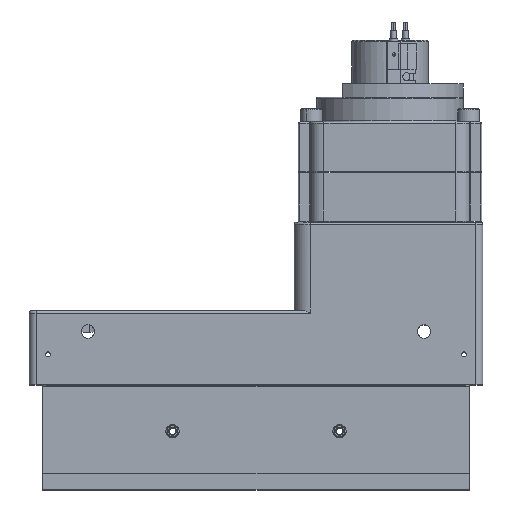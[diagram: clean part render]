
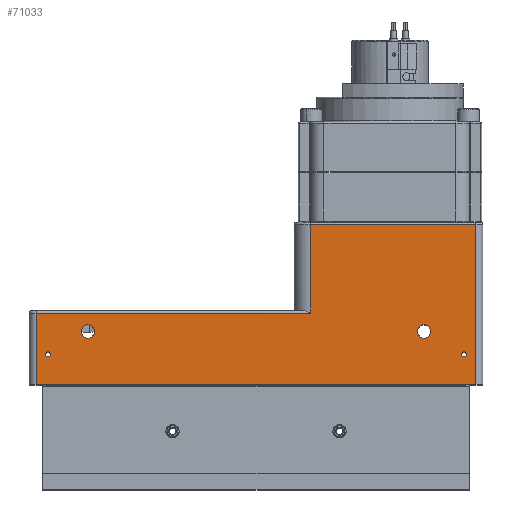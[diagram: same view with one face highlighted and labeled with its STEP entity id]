
A CAD part, top view. The second image highlights one B-rep face of the part: STEP entity #71033.
In plain terms, the highlighted planar face has unit normal (0, 0, 1).
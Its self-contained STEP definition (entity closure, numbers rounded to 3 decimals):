
#655 = CARTESIAN_POINT ( 'NONE',  ( -228.15, 63.602, 0. ) ) ;
#2196 = ORIENTED_EDGE ( 'NONE', *, *, #98437, .T. ) ;
#2356 = DIRECTION ( 'NONE',  ( 1., 0., 0. ) ) ;
#3676 = PLANE ( 'NONE',  #24675 ) ;
#4044 = VERTEX_POINT ( 'NONE', #32983 ) ;
#4432 = AXIS2_PLACEMENT_3D ( 'NONE', #113099, #57686, #2356 ) ;
#7827 = ORIENTED_EDGE ( 'NONE', *, *, #105913, .F. ) ;
#8080 = EDGE_LOOP ( 'NONE', ( #44246, #99811 ) ) ;
#8479 = VECTOR ( 'NONE', #40219, 1000. ) ;
#9543 = FACE_BOUND ( 'NONE', #8080, .T. ) ;
#9981 = DIRECTION ( 'NONE',  ( 1., 0., 0. ) ) ;
#10418 = CIRCLE ( 'NONE', #24355, 1.5 ) ;
#10759 = CARTESIAN_POINT ( 'NONE',  ( -259.15, 31.602, 0. ) ) ;
#11234 = AXIS2_PLACEMENT_3D ( 'NONE', #107255, #51890, #116637 ) ;
#11462 = DIRECTION ( 'NONE',  ( 0., 0., 1. ) ) ;
#12246 = CIRCLE ( 'NONE', #28177, 4.025 ) ;
#12394 = EDGE_CURVE ( 'NONE', #68558, #95173, #37319, .T. ) ;
#12789 = EDGE_CURVE ( 'NONE', #99424, #52660, #66110, .T. ) ;
#12948 = CARTESIAN_POINT ( 'NONE',  ( -263.15, 31.602, 0. ) ) ;
#13507 = CARTESIAN_POINT ( 'NONE',  ( -253.5, 49.852, 0. ) ) ;
#16402 = VECTOR ( 'NONE', #104312, 1000. ) ;
#16957 = EDGE_CURVE ( 'NONE', #110487, #44581, #32501, .T. ) ;
#17541 = CARTESIAN_POINT ( 'NONE',  ( -3., 49.852, 0. ) ) ;
#17686 = CARTESIAN_POINT ( 'NONE',  ( -252., 49.852, 0. ) ) ;
#18920 = LINE ( 'NONE', #65262, #111504 ) ;
#19090 = AXIS2_PLACEMENT_3D ( 'NONE', #655, #65255, #9981 ) ;
#20735 = ORIENTED_EDGE ( 'NONE', *, *, #52954, .T. ) ;
#21434 = VERTEX_POINT ( 'NONE', #37116 ) ;
#22115 = DIRECTION ( 'NONE',  ( 0., 0., 1. ) ) ;
#22229 = DIRECTION ( 'NONE',  ( 1., 0., 0. ) ) ;
#23223 = CARTESIAN_POINT ( 'NONE',  ( -94.66, 74.602, 0. ) ) ;
#24355 = AXIS2_PLACEMENT_3D ( 'NONE', #17541, #82242, #26847 ) ;
#24675 = AXIS2_PLACEMENT_3D ( 'NONE', #12948, #77540, #22229 ) ;
#25421 = ORIENTED_EDGE ( 'NONE', *, *, #81037, .T. ) ;
#26847 = DIRECTION ( 'NONE',  ( 1., 0., 0. ) ) ;
#26986 = DIRECTION ( 'NONE',  ( 1., 0., 0. ) ) ;
#28177 = AXIS2_PLACEMENT_3D ( 'NONE', #77422, #22115, #86770 ) ;
#28216 = CARTESIAN_POINT ( 'NONE',  ( -224.125, 63.602, 0. ) ) ;
#30348 = CARTESIAN_POINT ( 'NONE',  ( 4.15, 31.602, 0. ) ) ;
#32501 = CIRCLE ( 'NONE', #102117, 1.5 ) ;
#32983 = CARTESIAN_POINT ( 'NONE',  ( 4.15, 31.602, 0. ) ) ;
#34158 = FACE_OUTER_BOUND ( 'NONE', #118851, .T. ) ;
#35922 = ORIENTED_EDGE ( 'NONE', *, *, #101659, .T. ) ;
#37116 = CARTESIAN_POINT ( 'NONE',  ( -259.15, 74.602, 0. ) ) ;
#37319 = CIRCLE ( 'NONE', #19090, 4.025 ) ;
#37807 = VECTOR ( 'NONE', #57801, 1000. ) ;
#38798 = LINE ( 'NONE', #39419, #8479 ) ;
#39419 = CARTESIAN_POINT ( 'NONE',  ( -94.66, 76.102, 0. ) ) ;
#40219 = DIRECTION ( 'NONE',  ( 0., -1., 0. ) ) ;
#40987 = CARTESIAN_POINT ( 'NONE',  ( -4.5, 49.852, 0. ) ) ;
#42713 = DIRECTION ( 'NONE',  ( 0., 0., 1. ) ) ;
#43537 = VECTOR ( 'NONE', #48392, 1000. ) ;
#44246 = ORIENTED_EDGE ( 'NONE', *, *, #16957, .F. ) ;
#44507 = CARTESIAN_POINT ( 'NONE',  ( 4.15, 127.852, 0. ) ) ;
#44581 = VERTEX_POINT ( 'NONE', #13507 ) ;
#46394 = LINE ( 'NONE', #47991, #43537 ) ;
#47820 = CARTESIAN_POINT ( 'NONE',  ( -250.5, 49.852, 0. ) ) ;
#47991 = CARTESIAN_POINT ( 'NONE',  ( -263.15, 74.602, 0. ) ) ;
#48196 = AXIS2_PLACEMENT_3D ( 'NONE', #66779, #11462, #76050 ) ;
#48392 = DIRECTION ( 'NONE',  ( -1., 0., 0. ) ) ;
#51890 = DIRECTION ( 'NONE',  ( 0., 0., 1. ) ) ;
#52660 = VERTEX_POINT ( 'NONE', #40987 ) ;
#52866 = VERTEX_POINT ( 'NONE', #10759 ) ;
#52954 = EDGE_CURVE ( 'NONE', #110138, #86842, #38798, .T. ) ;
#54149 = ORIENTED_EDGE ( 'NONE', *, *, #12394, .F. ) ;
#57686 = DIRECTION ( 'NONE',  ( 0., 0., 1. ) ) ;
#57801 = DIRECTION ( 'NONE',  ( 1., 0., 0. ) ) ;
#58318 = EDGE_CURVE ( 'NONE', #119083, #100674, #107620, .T. ) ;
#58647 = FACE_BOUND ( 'NONE', #103626, .T. ) ;
#59061 = CIRCLE ( 'NONE', #11234, 1.5 ) ;
#61750 = EDGE_CURVE ( 'NONE', #100674, #119083, #12246, .T. ) ;
#63152 = EDGE_LOOP ( 'NONE', ( #72089, #79142 ) ) ;
#64763 = ORIENTED_EDGE ( 'NONE', *, *, #112039, .T. ) ;
#65245 = LINE ( 'NONE', #103892, #37807 ) ;
#65255 = DIRECTION ( 'NONE',  ( 0., 0., 1. ) ) ;
#65262 = CARTESIAN_POINT ( 'NONE',  ( -94.66, 127.852, 0. ) ) ;
#65448 = VECTOR ( 'NONE', #83005, 1000. ) ;
#65628 = EDGE_LOOP ( 'NONE', ( #54149, #7827 ) ) ;
#66110 = CIRCLE ( 'NONE', #4432, 1.5 ) ;
#66305 = CARTESIAN_POINT ( 'NONE',  ( -22.825, 63.602, 0. ) ) ;
#66779 = CARTESIAN_POINT ( 'NONE',  ( -26.85, 63.602, 0. ) ) ;
#68558 = VERTEX_POINT ( 'NONE', #28216 ) ;
#71033 = ADVANCED_FACE ( 'NONE', ( #9543, #107873, #58647, #86124, #34158 ), #3676, .T. ) ;
#71260 = LINE ( 'NONE', #73661, #65448 ) ;
#72089 = ORIENTED_EDGE ( 'NONE', *, *, #12789, .F. ) ;
#73661 = CARTESIAN_POINT ( 'NONE',  ( -259.15, 31.602, 0. ) ) ;
#73709 = ORIENTED_EDGE ( 'NONE', *, *, #75367, .T. ) ;
#75367 = EDGE_CURVE ( 'NONE', #52866, #4044, #65245, .T. ) ;
#76050 = DIRECTION ( 'NONE',  ( 1., 0., 0. ) ) ;
#77422 = CARTESIAN_POINT ( 'NONE',  ( -26.85, 63.602, 0. ) ) ;
#77540 = DIRECTION ( 'NONE',  ( 0., 0., 1. ) ) ;
#79142 = ORIENTED_EDGE ( 'NONE', *, *, #90798, .F. ) ;
#81037 = EDGE_CURVE ( 'NONE', #97528, #110138, #18920, .T. ) ;
#82242 = DIRECTION ( 'NONE',  ( 0., 0., 1. ) ) ;
#82368 = DIRECTION ( 'NONE',  ( 0., 0., 1. ) ) ;
#83005 = DIRECTION ( 'NONE',  ( 0., -1., 0. ) ) ;
#86124 = FACE_BOUND ( 'NONE', #65628, .T. ) ;
#86770 = DIRECTION ( 'NONE',  ( 1., 0., 0. ) ) ;
#86842 = VERTEX_POINT ( 'NONE', #23223 ) ;
#86883 = CARTESIAN_POINT ( 'NONE',  ( -30.875, 63.602, 0. ) ) ;
#89120 = AXIS2_PLACEMENT_3D ( 'NONE', #98052, #42713, #107334 ) ;
#90126 = LINE ( 'NONE', #30348, #16402 ) ;
#90798 = EDGE_CURVE ( 'NONE', #52660, #99424, #10418, .T. ) ;
#91324 = CIRCLE ( 'NONE', #89120, 4.025 ) ;
#92598 = EDGE_CURVE ( 'NONE', #44581, #110487, #59061, .T. ) ;
#93170 = DIRECTION ( 'NONE',  ( -1., 0., 0. ) ) ;
#95173 = VERTEX_POINT ( 'NONE', #118406 ) ;
#96666 = CARTESIAN_POINT ( 'NONE',  ( -1.5, 49.852, 0. ) ) ;
#97248 = CARTESIAN_POINT ( 'NONE',  ( -94.66, 127.852, 0. ) ) ;
#97528 = VERTEX_POINT ( 'NONE', #44507 ) ;
#98052 = CARTESIAN_POINT ( 'NONE',  ( -228.15, 63.602, 0. ) ) ;
#98437 = EDGE_CURVE ( 'NONE', #21434, #52866, #71260, .T. ) ;
#98884 = ORIENTED_EDGE ( 'NONE', *, *, #58318, .F. ) ;
#98966 = ORIENTED_EDGE ( 'NONE', *, *, #61750, .F. ) ;
#99424 = VERTEX_POINT ( 'NONE', #96666 ) ;
#99811 = ORIENTED_EDGE ( 'NONE', *, *, #92598, .F. ) ;
#100674 = VERTEX_POINT ( 'NONE', #66305 ) ;
#101659 = EDGE_CURVE ( 'NONE', #86842, #21434, #46394, .T. ) ;
#102117 = AXIS2_PLACEMENT_3D ( 'NONE', #17686, #82368, #26986 ) ;
#103626 = EDGE_LOOP ( 'NONE', ( #98966, #98884 ) ) ;
#103892 = CARTESIAN_POINT ( 'NONE',  ( -263.15, 31.602, 0. ) ) ;
#104312 = DIRECTION ( 'NONE',  ( 0., 1., 0. ) ) ;
#105913 = EDGE_CURVE ( 'NONE', #95173, #68558, #91324, .T. ) ;
#107255 = CARTESIAN_POINT ( 'NONE',  ( -252., 49.852, 0. ) ) ;
#107334 = DIRECTION ( 'NONE',  ( 1., 0., 0. ) ) ;
#107620 = CIRCLE ( 'NONE', #48196, 4.025 ) ;
#107873 = FACE_BOUND ( 'NONE', #63152, .T. ) ;
#110138 = VERTEX_POINT ( 'NONE', #97248 ) ;
#110487 = VERTEX_POINT ( 'NONE', #47820 ) ;
#111504 = VECTOR ( 'NONE', #93170, 1000. ) ;
#112039 = EDGE_CURVE ( 'NONE', #4044, #97528, #90126, .T. ) ;
#113099 = CARTESIAN_POINT ( 'NONE',  ( -3., 49.852, 0. ) ) ;
#116637 = DIRECTION ( 'NONE',  ( 1., 0., 0. ) ) ;
#118406 = CARTESIAN_POINT ( 'NONE',  ( -232.175, 63.602, 0. ) ) ;
#118851 = EDGE_LOOP ( 'NONE', ( #20735, #35922, #2196, #73709, #64763, #25421 ) ) ;
#119083 = VERTEX_POINT ( 'NONE', #86883 ) ;
